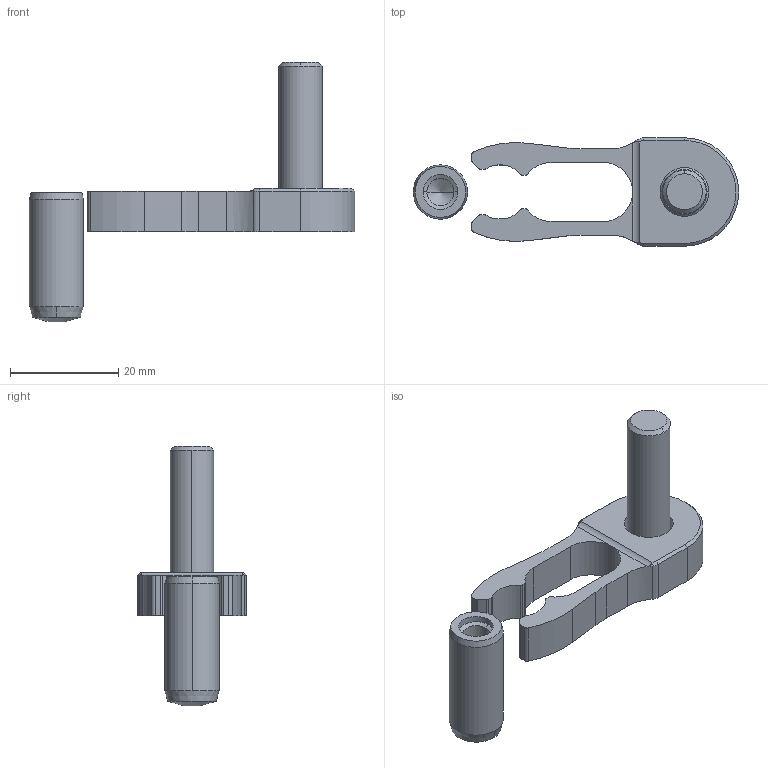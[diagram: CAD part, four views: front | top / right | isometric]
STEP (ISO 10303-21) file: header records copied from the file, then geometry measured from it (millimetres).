
FILE_DESCRIPTION (( 'STEP AP214' ), '1' );
FILE_NAME ('RC205010.STEP', '2013-07-10T10:19:06', ( '' ), ( '' ), 'SwSTEP 2.0', 'SolidWorks 2011', '' );
FILE_SCHEMA (( 'AUTOMOTIVE_DESIGN' ));
Length unit declared in the file: millimetre
Products named in the file (4): Socket Countersunk Head Screw_DIN_DIN 7991 - M8 x 30 --- 21.8C; 9RC.205010; RC205010; Parallel Pin Hardened 02_DIN_DIN EN ISO 8735-10x24-A-St
Assembly tree (3 placements, depth 2):
  RC205010
    Parallel Pin Hardened 02_DIN_DIN EN ISO 8735-10x24-A-St
    Socket Countersunk Head Screw_DIN_DIN 7991 - M8 x 30 --- 21.8C
    9RC.205010
Bounding box: 60 x 20 x 47.8 mm (x, y, z)
Volume: 6578.3 mm3; surface area: 4868.9 mm2
Topology: 3 solids, 3 shells, 101 faces, 251 edges, 154 vertices
Faces by surface type: cylinder 41, plane 36, cone 21, bspline 3
Entity records: 4284 total; most frequent: CARTESIAN_POINT 573, DIRECTION 556, ORIENTED_EDGE 494, EDGE_CURVE 247, AXIS2_PLACEMENT_3D 209, VERTEX_POINT 154, VECTOR 138, LINE 138
